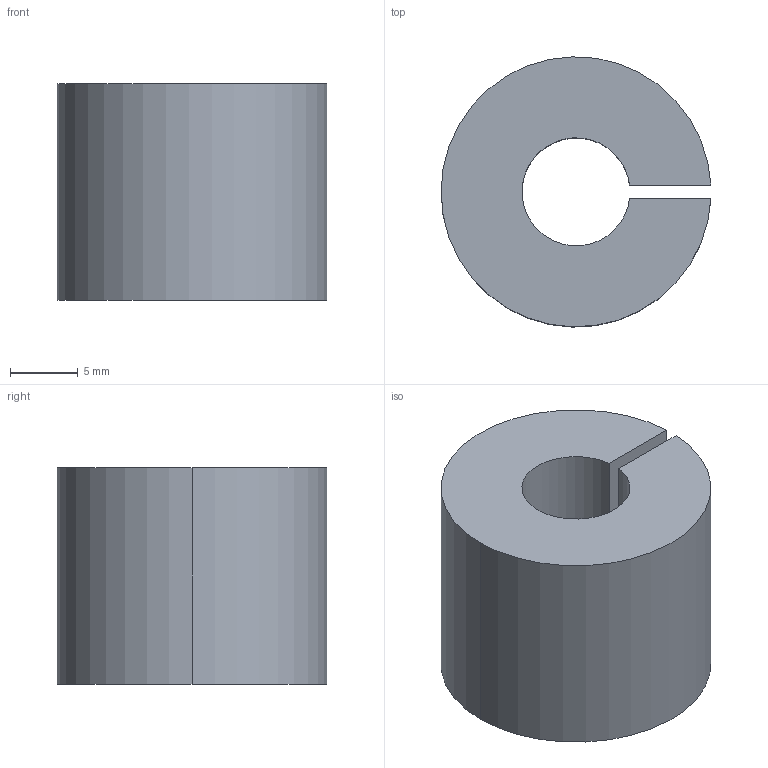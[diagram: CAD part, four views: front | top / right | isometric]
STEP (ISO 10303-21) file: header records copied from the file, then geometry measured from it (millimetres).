
FILE_DESCRIPTION (( 'STEP AP214' ), '1' );
FILE_NAME ('SBND-2008.STEP', '2019-11-11T06:08:46', ( '微软用户' ), ( '微软中国' ), 'SwSTEP 2.0', 'SolidWorks 2016', '' );
FILE_SCHEMA (( 'AUTOMOTIVE_DESIGN' ));
Length unit declared in the file: millimetre
Products named in the file (1): SBND-2008
Bounding box: 19.99 x 19.99 x 16 mm (x, y, z)
Volume: 4126.2 mm3; surface area: 2083.8 mm2
Topology: 1 solids, 1 shells, 8 faces, 18 edges, 12 vertices
Faces by surface type: cylinder 4, plane 4
Entity records: 264 total; most frequent: DIRECTION 44, CARTESIAN_POINT 39, ORIENTED_EDGE 36, EDGE_CURVE 18, AXIS2_PLACEMENT_3D 17, VERTEX_POINT 12, LINE 10, VECTOR 10
